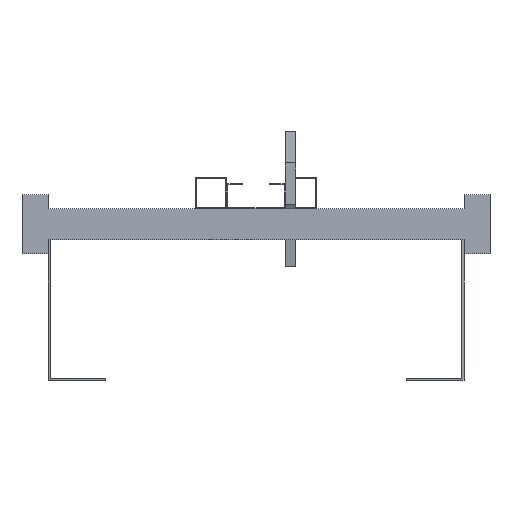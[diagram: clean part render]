
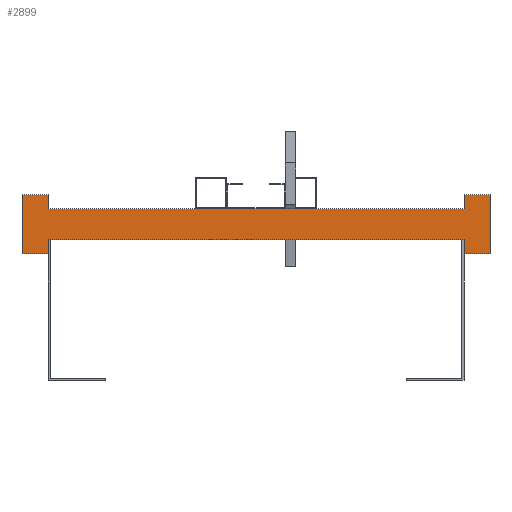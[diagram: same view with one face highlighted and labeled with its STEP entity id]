
A CAD part, front view. The second image highlights one B-rep face of the part: STEP entity #2899.
In plain terms, the highlighted planar face has unit normal (0, -1, 0).
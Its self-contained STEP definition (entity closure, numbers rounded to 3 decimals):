
#961=DIRECTION('',(0.,0.,1.));
#962=VECTOR('',#961,13.5);
#963=CARTESIAN_POINT('',(200.,0.,-28.5));
#964=LINE('',#963,#962);
#965=DIRECTION('',(0.,0.,-1.));
#966=VECTOR('',#965,13.5);
#967=CARTESIAN_POINT('',(-200.,0.,-15.));
#968=LINE('',#967,#966);
#969=DIRECTION('',(-1.,0.,0.));
#970=VECTOR('',#969,25.);
#971=CARTESIAN_POINT('',(-200.,0.,-28.5));
#972=LINE('',#971,#970);
#973=DIRECTION('',(0.,0.,1.));
#974=VECTOR('',#973,57.);
#975=CARTESIAN_POINT('',(-225.,0.,-28.5));
#976=LINE('',#975,#974);
#977=DIRECTION('',(1.,0.,0.));
#978=VECTOR('',#977,25.);
#979=CARTESIAN_POINT('',(-225.,0.,28.5));
#980=LINE('',#979,#978);
#981=DIRECTION('',(0.,0.,-1.));
#982=VECTOR('',#981,13.5);
#983=CARTESIAN_POINT('',(-200.,0.,28.5));
#984=LINE('',#983,#982);
#985=DIRECTION('',(0.,0.,1.));
#986=VECTOR('',#985,13.5);
#987=CARTESIAN_POINT('',(200.,0.,15.));
#988=LINE('',#987,#986);
#989=DIRECTION('',(1.,0.,0.));
#990=VECTOR('',#989,25.);
#991=CARTESIAN_POINT('',(200.,0.,28.5));
#992=LINE('',#991,#990);
#993=DIRECTION('',(0.,0.,-1.));
#994=VECTOR('',#993,57.);
#995=CARTESIAN_POINT('',(225.,0.,28.5));
#996=LINE('',#995,#994);
#997=DIRECTION('',(-1.,0.,0.));
#998=VECTOR('',#997,25.);
#999=CARTESIAN_POINT('',(225.,0.,-28.5));
#1000=LINE('',#999,#998);
#1001=DIRECTION('',(1.,0.,0.));
#1002=VECTOR('',#1001,400.);
#1003=CARTESIAN_POINT('',(-200.,0.,-15.));
#1004=LINE('',#1003,#1002);
#1013=DIRECTION('',(1.,0.,0.));
#1014=VECTOR('',#1013,400.);
#1015=CARTESIAN_POINT('',(-200.,0.,15.));
#1016=LINE('',#1015,#1014);
#1297=CARTESIAN_POINT('',(-225.,0.,28.5));
#1298=CARTESIAN_POINT('',(-200.,0.,28.5));
#1299=VERTEX_POINT('',#1297);
#1300=VERTEX_POINT('',#1298);
#1301=CARTESIAN_POINT('',(-200.,0.,-28.5));
#1302=CARTESIAN_POINT('',(-225.,0.,-28.5));
#1303=VERTEX_POINT('',#1301);
#1304=VERTEX_POINT('',#1302);
#1305=CARTESIAN_POINT('',(225.,0.,28.5));
#1306=CARTESIAN_POINT('',(225.,0.,-28.5));
#1307=VERTEX_POINT('',#1305);
#1308=VERTEX_POINT('',#1306);
#1309=CARTESIAN_POINT('',(200.,0.,-28.5));
#1310=VERTEX_POINT('',#1309);
#1311=CARTESIAN_POINT('',(200.,0.,28.5));
#1312=VERTEX_POINT('',#1311);
#1329=CARTESIAN_POINT('',(-200.,0.,-15.));
#1331=VERTEX_POINT('',#1329);
#1333=CARTESIAN_POINT('',(-200.,0.,15.));
#1335=VERTEX_POINT('',#1333);
#1337=CARTESIAN_POINT('',(200.,0.,-15.));
#1339=VERTEX_POINT('',#1337);
#1341=CARTESIAN_POINT('',(200.,0.,15.));
#1343=VERTEX_POINT('',#1341);
#2874=CARTESIAN_POINT('',(0.,0.,0.));
#2875=DIRECTION('',(0.,1.,0.));
#2876=DIRECTION('',(1.,0.,0.));
#2877=AXIS2_PLACEMENT_3D('',#2874,#2875,#2876);
#2878=PLANE('',#2877);
#2879=ORIENTED_EDGE('',*,*,#2017,.T.);
#2881=ORIENTED_EDGE('',*,*,#2880,.F.);
#2882=ORIENTED_EDGE('',*,*,#1804,.T.);
#2883=ORIENTED_EDGE('',*,*,#1714,.T.);
#2885=ORIENTED_EDGE('',*,*,#2884,.T.);
#2887=ORIENTED_EDGE('',*,*,#2886,.T.);
#2888=ORIENTED_EDGE('',*,*,#1812,.T.);
#2890=ORIENTED_EDGE('',*,*,#2889,.T.);
#2891=ORIENTED_EDGE('',*,*,#2009,.T.);
#2893=ORIENTED_EDGE('',*,*,#2892,.T.);
#2895=ORIENTED_EDGE('',*,*,#2894,.T.);
#2896=ORIENTED_EDGE('',*,*,#2574,.T.);
#2897=EDGE_LOOP('',(#2879,#2881,#2882,#2883,#2885,#2887,#2888,#2890,#2891,#2893,
#2895,#2896));
#2898=FACE_OUTER_BOUND('',#2897,.F.);
#1714=EDGE_CURVE('',#1303,#1304,#972,.T.);
#1804=EDGE_CURVE('',#1331,#1303,#968,.T.);
#1812=EDGE_CURVE('',#1300,#1335,#984,.T.);
#2009=EDGE_CURVE('',#1343,#1312,#988,.T.);
#2017=EDGE_CURVE('',#1310,#1339,#964,.T.);
#2574=EDGE_CURVE('',#1308,#1310,#1000,.T.);
#2880=EDGE_CURVE('',#1331,#1339,#1004,.T.);
#2884=EDGE_CURVE('',#1304,#1299,#976,.T.);
#2886=EDGE_CURVE('',#1299,#1300,#980,.T.);
#2889=EDGE_CURVE('',#1335,#1343,#1016,.T.);
#2892=EDGE_CURVE('',#1312,#1307,#992,.T.);
#2894=EDGE_CURVE('',#1307,#1308,#996,.T.);
#2899=ADVANCED_FACE('',(#2898),#2878,.F.);
